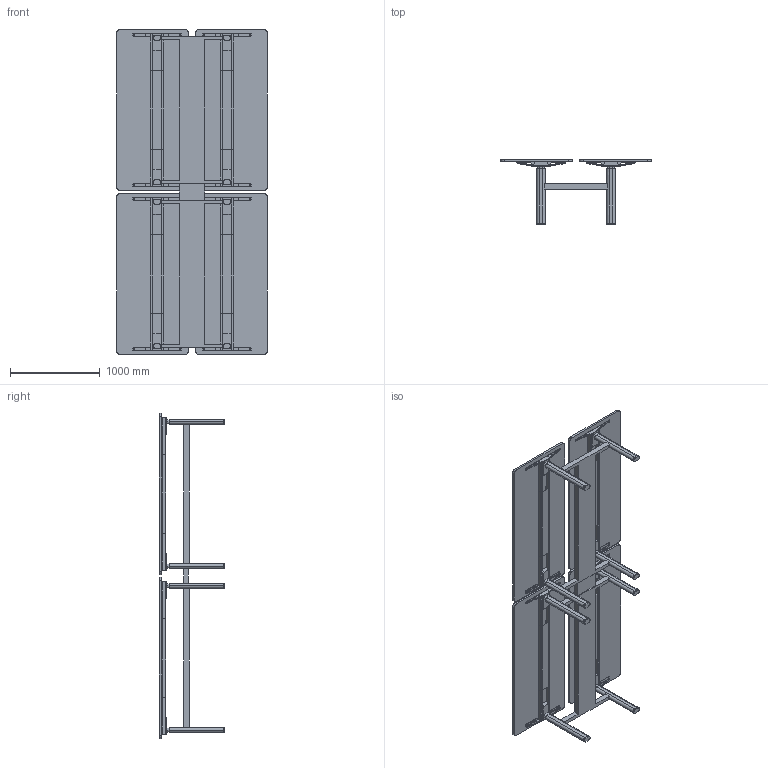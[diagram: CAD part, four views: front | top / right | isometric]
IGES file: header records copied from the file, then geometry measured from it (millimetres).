
Start section: SolidWorks IGES file using analytic representation for surfaces
Global section: file name: C:\Users\simone.cerana\OneDrive - Gruppo Tecno\Desktop\CHINA\DISEGNI DI SERIE\ASSIEMI LISTINO\AXIS LISTINO\AX3616ST.IGS; native system: SolidWorks 2024; preprocessor: SolidWorks 2024; author: simone.cerana; date: 260508.092124; units: millimetre
Bounding box: 1680 x 729.39 x 3630 mm (x, y, z)
Surface area: 19129724.8 mm2 (no closed solid volume)
Topology: 0 solids, 0 shells, 1086 faces, 12728 edges, 12712 vertices
Faces by surface type: revolution 544, bspline 542
